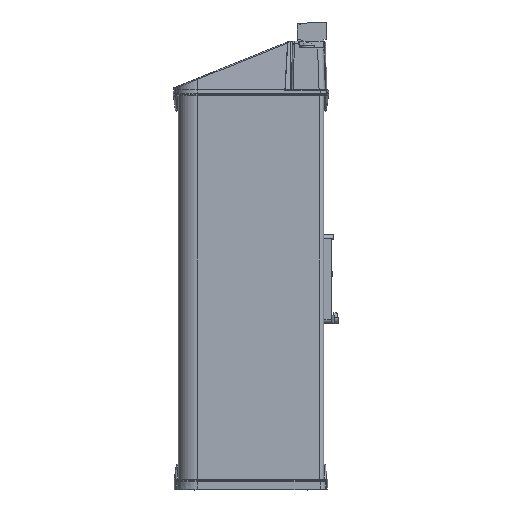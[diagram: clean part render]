
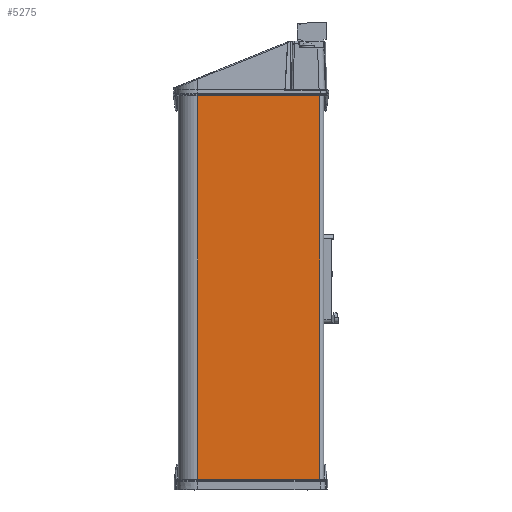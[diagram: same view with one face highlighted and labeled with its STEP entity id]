
A CAD part, left-side view. The second image highlights one B-rep face of the part: STEP entity #5275.
In plain terms, the highlighted planar face has unit normal (-1, 0, 0) as drawn and (0, 1, 0) by its records, which use the part's own axes.
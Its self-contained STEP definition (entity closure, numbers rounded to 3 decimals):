
#5095 = EDGE_CURVE ( 'NONE', #32600, #11545, #44002, .T. ) ;
#5275 = ADVANCED_FACE ( 'NONE', ( #11943 ), #8320, .F. ) ;
#6388 = ORIENTED_EDGE ( 'NONE', *, *, #8597, .F. ) ;
#8280 = ORIENTED_EDGE ( 'NONE', *, *, #5095, .F. ) ;
#8320 = PLANE ( 'NONE',  #44614 ) ;
#8597 = EDGE_CURVE ( 'NONE', #11545, #18995, #40555, .T. ) ;
#9936 = CARTESIAN_POINT ( 'NONE',  ( -2., 24.5, 200. ) ) ;
#11130 = EDGE_LOOP ( 'NONE', ( #30409, #6388, #8280, #31051 ) ) ;
#11545 = VERTEX_POINT ( 'NONE', #21151 ) ;
#11943 = FACE_OUTER_BOUND ( 'NONE', #11130, .T. ) ;
#12370 = VERTEX_POINT ( 'NONE', #37262 ) ;
#12562 = EDGE_CURVE ( 'NONE', #32600, #12370, #14917, .T. ) ;
#14917 = LINE ( 'NONE', #42417, #39310 ) ;
#15144 = CARTESIAN_POINT ( 'NONE',  ( -65., 24.5, 0. ) ) ;
#18995 = VERTEX_POINT ( 'NONE', #15144 ) ;
#20308 = DIRECTION ( 'NONE',  ( -1., 0., 0. ) ) ;
#21151 = CARTESIAN_POINT ( 'NONE',  ( -65., 24.5, 200. ) ) ;
#25708 = VECTOR ( 'NONE', #41123, 1000. ) ;
#27472 = CARTESIAN_POINT ( 'NONE',  ( -2., 24.5, 200. ) ) ;
#28680 = DIRECTION ( 'NONE',  ( 0., 0., -1. ) ) ;
#29074 = DIRECTION ( 'NONE',  ( 1., 0., 0. ) ) ;
#29534 = CARTESIAN_POINT ( 'NONE',  ( -2., 24.5, 100. ) ) ;
#30409 = ORIENTED_EDGE ( 'NONE', *, *, #34410, .T. ) ;
#30653 = CARTESIAN_POINT ( 'NONE',  ( -65., 24.5, 100. ) ) ;
#31051 = ORIENTED_EDGE ( 'NONE', *, *, #12562, .T. ) ;
#32600 = VERTEX_POINT ( 'NONE', #27472 ) ;
#33860 = VECTOR ( 'NONE', #20308, 1000. ) ;
#34410 = EDGE_CURVE ( 'NONE', #12370, #18995, #37312, .T. ) ;
#37262 = CARTESIAN_POINT ( 'NONE',  ( -2., 24.5, 0. ) ) ;
#37312 = LINE ( 'NONE', #40692, #25708 ) ;
#38176 = VECTOR ( 'NONE', #43489, 1000. ) ;
#39310 = VECTOR ( 'NONE', #28680, 1000. ) ;
#40555 = LINE ( 'NONE', #30653, #38176 ) ;
#40692 = CARTESIAN_POINT ( 'NONE',  ( -2., 24.5, 0. ) ) ;
#41123 = DIRECTION ( 'NONE',  ( -1., 0., 0. ) ) ;
#42417 = CARTESIAN_POINT ( 'NONE',  ( -2., 24.5, 100. ) ) ;
#43264 = DIRECTION ( 'NONE',  ( 0., -1., 0. ) ) ;
#43489 = DIRECTION ( 'NONE',  ( 0., 0., -1. ) ) ;
#44002 = LINE ( 'NONE', #9936, #33860 ) ;
#44614 = AXIS2_PLACEMENT_3D ( 'NONE', #29534, #43264, #29074 ) ;
